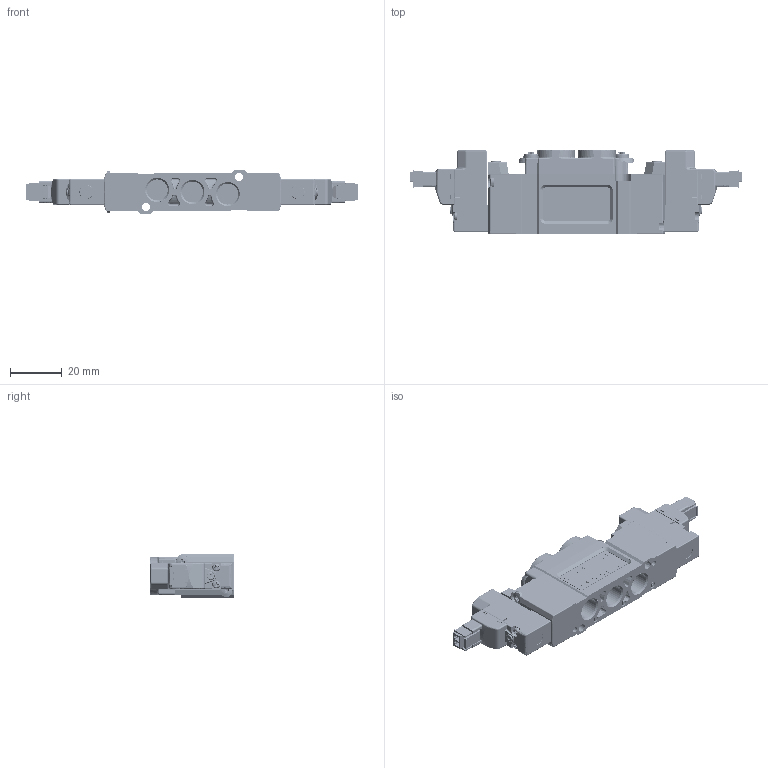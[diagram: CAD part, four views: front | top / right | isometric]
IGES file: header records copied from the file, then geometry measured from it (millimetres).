
Start section: SolidWorks IGES file using analytic representation for surfaces
Global section: file name: C:\Documents and Settings\Administrator\桌面\新資料夾 (2)\VM5252-01-D.IGS; native system: SolidWorks 2012; preprocessor: SolidWorks 2012; author: Administrator; date: 150730.165557; units: millimetre
Bounding box: 128.15 x 32.5 x 16.6 mm (x, y, z)
Surface area: 24608.6 mm2 (no closed solid volume)
Topology: 0 solids, 0 shells, 3118 faces, 37441 edges, 45325 vertices
Faces by surface type: bspline 2054, revolution 1064
